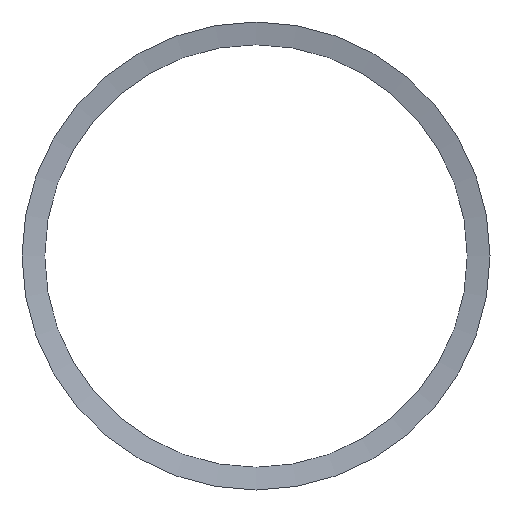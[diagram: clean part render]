
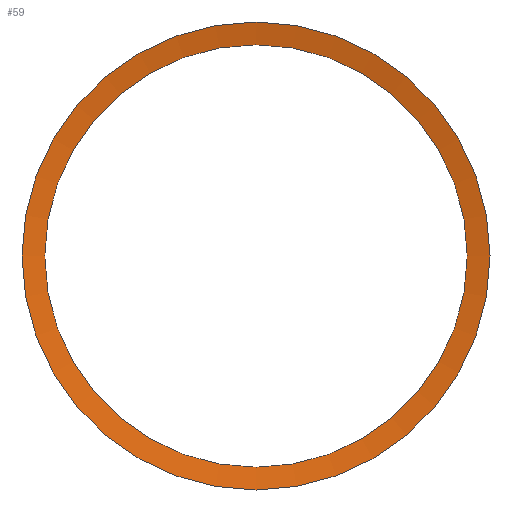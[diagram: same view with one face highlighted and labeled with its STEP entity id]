
A CAD part, front view. The second image highlights one B-rep face of the part: STEP entity #59.
In plain terms, the highlighted conical face has half-angle 80 degrees and reference radius 56.079 mm.
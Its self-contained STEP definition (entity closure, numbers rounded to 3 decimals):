
#13=CONICAL_SURFACE($,#69,56.079,80.);
#16=FACE_BOUND($,#27,.T.);
#20=FACE_OUTER_BOUND($,#26,.T.);
#26=EDGE_LOOP($,(#46));
#27=EDGE_LOOP($,(#47));
#31=CIRCLE($,#66,55.75);
#33=CIRCLE($,#70,61.75);
#35=VERTEX_POINT($,#94);
#37=VERTEX_POINT($,#100);
#39=EDGE_CURVE($,#35,#35,#31,.T.);
#41=EDGE_CURVE($,#37,#37,#33,.T.);
#46=ORIENTED_EDGE($,*,*,#39,.T.);
#47=ORIENTED_EDGE($,*,*,#41,.F.);
#59=ADVANCED_FACE($,(#20,#16),#13,.F.);
#66=AXIS2_PLACEMENT_3D($,#95,#78,#79);
#69=AXIS2_PLACEMENT_3D($,#99,#84,#85);
#70=AXIS2_PLACEMENT_3D($,#101,#86,#87);
#78=DIRECTION('center_axis',(0.,1.,0.));
#79=DIRECTION('ref_axis',(1.,0.,0.));
#84=DIRECTION('center_axis',(0.,-1.,0.));
#85=DIRECTION('ref_axis',(-1.,0.,0.));
#86=DIRECTION('center_axis',(0.,1.,0.));
#87=DIRECTION('ref_axis',(-1.,0.,0.));
#94=CARTESIAN_POINT('',(-55.75,-0.942,0.));
#95=CARTESIAN_POINT('Origin',(0.,-0.942,0.));
#99=CARTESIAN_POINT('Origin',(0.,-1.,0.));
#100=CARTESIAN_POINT('',(-61.75,-2.,0.));
#101=CARTESIAN_POINT('Origin',(0.,-2.,0.));
